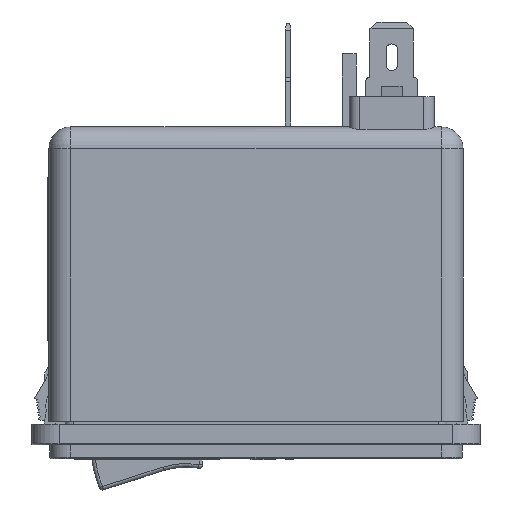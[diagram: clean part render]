
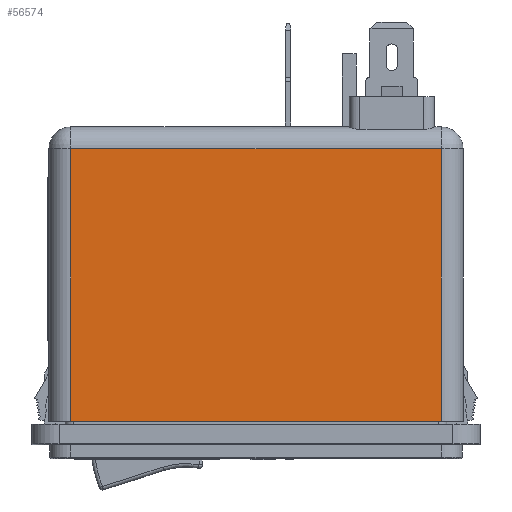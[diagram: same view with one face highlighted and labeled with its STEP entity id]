
A CAD part, left-side view. The second image highlights one B-rep face of the part: STEP entity #56574.
In plain terms, the highlighted planar face has unit normal (-1, 0, 0).
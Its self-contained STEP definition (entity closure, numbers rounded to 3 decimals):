
#55060=CARTESIAN_POINT('',(-14.25,-8.775,24.775));
#55061=VERTEX_POINT('',#55060);
#55069=CARTESIAN_POINT('',(-14.25,44.875,24.775));
#55070=VERTEX_POINT('',#55069);
#55071=CARTESIAN_POINT('',(-14.25,-8.775,24.775));
#55072=DIRECTION('',(0.0,1.0,0.0));
#55073=VECTOR('',#55072,53.65);
#55074=LINE('',#55071,#55073);
#55075=EDGE_CURVE('',#55061,#55070,#55074,.T.);
#55964=CARTESIAN_POINT('',(-14.25,-8.775,64.225));
#55965=VERTEX_POINT('',#55964);
#56011=CARTESIAN_POINT('',(-14.25,44.875,64.225));
#56012=VERTEX_POINT('',#56011);
#56055=CARTESIAN_POINT('',(-14.25,44.875,24.775));
#56056=DIRECTION('',(0.0,0.0,1.0));
#56057=VECTOR('',#56056,39.45);
#56058=LINE('',#56055,#56057);
#56059=EDGE_CURVE('',#55070,#56012,#56058,.T.);
#56074=CARTESIAN_POINT('',(-14.25,44.875,64.225));
#56075=DIRECTION('',(0.0,-1.0,0.0));
#56076=VECTOR('',#56075,53.65);
#56077=LINE('',#56074,#56076);
#56078=EDGE_CURVE('',#56012,#55965,#56077,.T.);
#56112=CARTESIAN_POINT('',(-14.25,-8.775,64.225));
#56113=DIRECTION('',(0.0,0.0,-1.0));
#56114=VECTOR('',#56113,39.45);
#56115=LINE('',#56112,#56114);
#56116=EDGE_CURVE('',#55965,#55061,#56115,.T.);
#56563=CARTESIAN_POINT('',(-14.25,-11.925,24.775));
#56564=DIRECTION('',(-1.0,0.0,0.0));
#56565=DIRECTION('',(0.0,0.0,1.0));
#56566=AXIS2_PLACEMENT_3D('',#56563,#56564,#56565);
#56567=PLANE('',#56566);
#56568=ORIENTED_EDGE('',*,*,#56059,.F.);
#56569=ORIENTED_EDGE('',*,*,#55075,.F.);
#56570=ORIENTED_EDGE('',*,*,#56116,.F.);
#56571=ORIENTED_EDGE('',*,*,#56078,.F.);
#56572=EDGE_LOOP('',(#56568,#56569,#56570,#56571));
#56573=FACE_OUTER_BOUND('',#56572,.T.);
#56574=ADVANCED_FACE('',(#56573),#56567,.T.);
